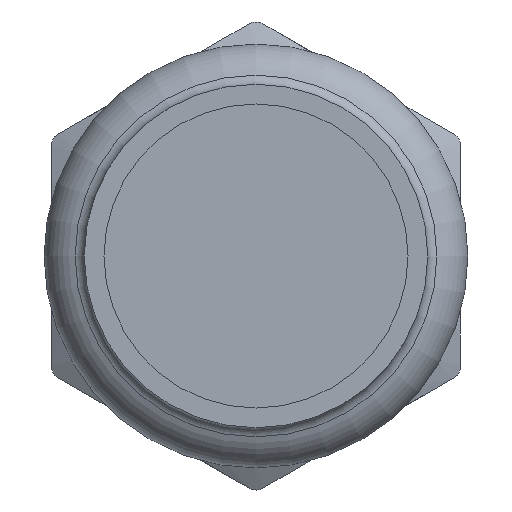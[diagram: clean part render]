
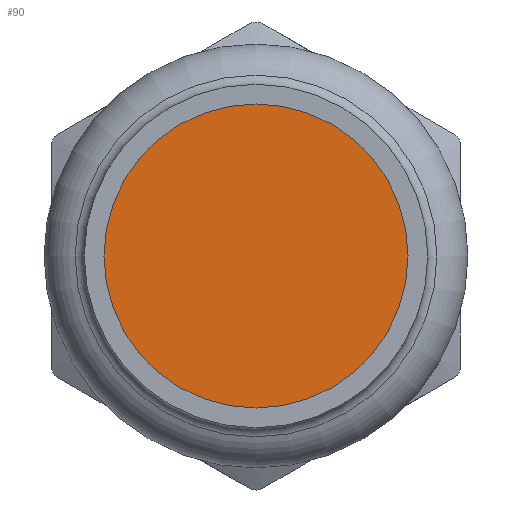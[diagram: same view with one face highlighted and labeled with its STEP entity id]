
A CAD part, front view. The second image highlights one B-rep face of the part: STEP entity #90.
In plain terms, the highlighted planar face has unit normal (0, -1, 0).
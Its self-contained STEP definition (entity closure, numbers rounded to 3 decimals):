
#90=ADVANCED_FACE('',(#386),#388,.T.);
#386=FACE_BOUND('',#387,.T.);
#387=EDGE_LOOP('',(#528));
#388=PLANE('',#389);
#389=AXIS2_PLACEMENT_3D('',#390,#391,#392);
#390=CARTESIAN_POINT('',(0.,7.221,0.));
#391=DIRECTION('',(0.,-1.,0.));
#392=DIRECTION('',(0.,0.,-1.));
#528=ORIENTED_EDGE('',*,*,#596,.T.);
#596=EDGE_CURVE('',#713,#713,#714,.F.);
#713=VERTEX_POINT('',#1884);
#714=CIRCLE('',#1885,11.15);
#1884=CARTESIAN_POINT('',(0.,7.221,11.15));
#1885=AXIS2_PLACEMENT_3D('',#1886,#1887,#1888);
#1886=CARTESIAN_POINT('',(0.,7.221,0.));
#1887=DIRECTION('',(0.,1.,0.));
#1888=DIRECTION('',(0.,0.,1.));
